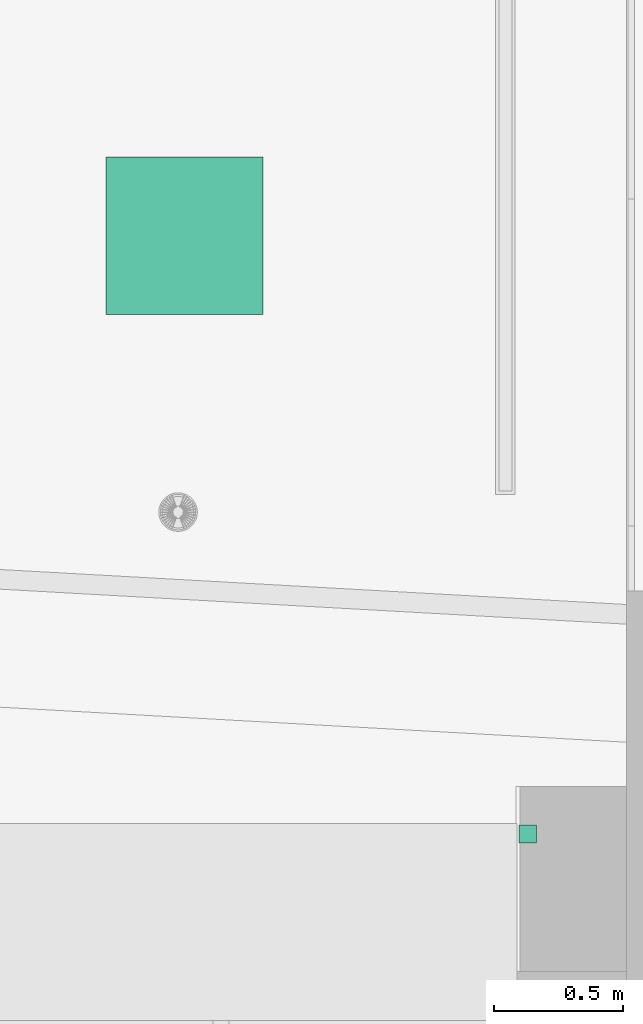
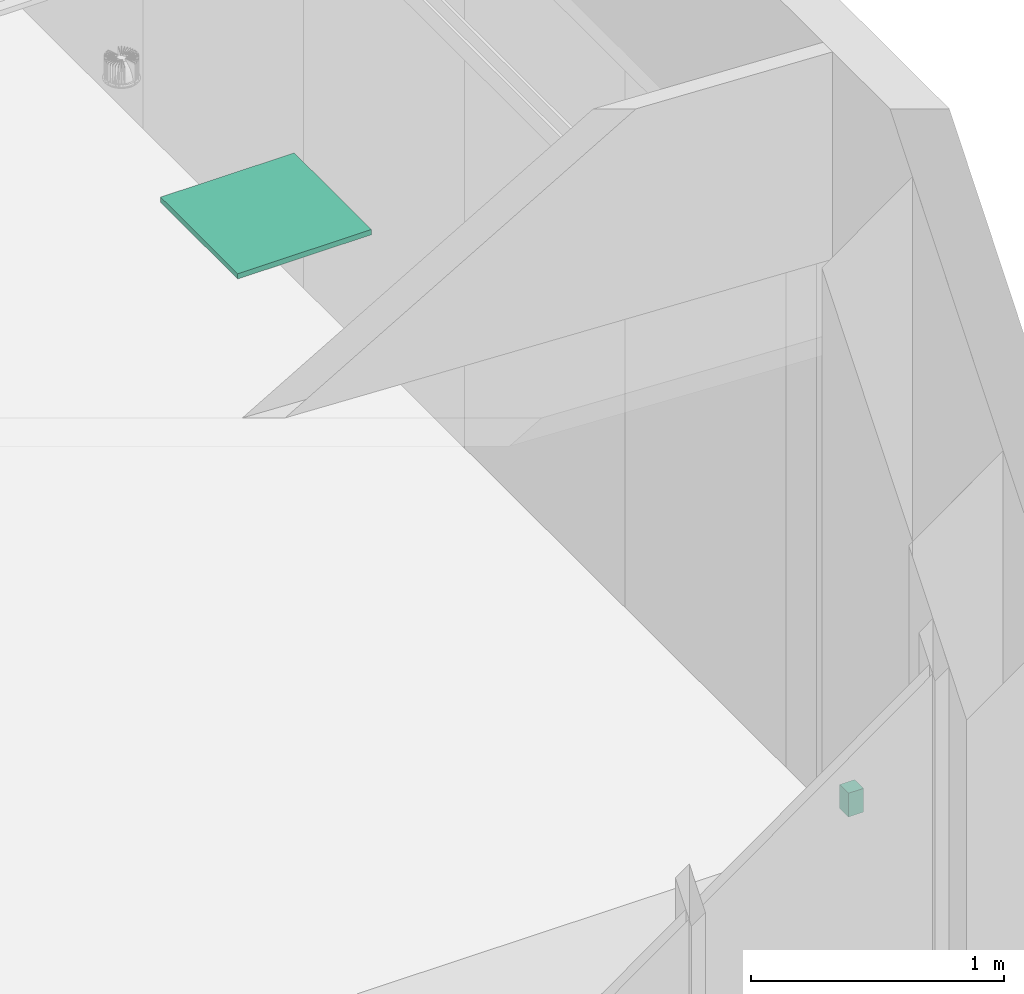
# One storey, part 83 of 108: 1 air terminal, 1 outlet.
"""IFC4 building model written with IfcOpenShell, lengths in feet."""

from ifc_helpers import new_model, entity, si_unit, converted_unit, derived_unit, direction, frame, origin, origin_2d_with_axis, place, context, subcontext, project, spatial, rectangle, extrude, source, transform, mapped, type_object, type_shapes, element, save


model = new_model("IFC4")

# Units and contexts
model_context = context("Model", 3, precision=0.0001, world=origin(), true_north=direction((6.12303176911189e-17, 1.0)))
body_context = subcontext(model_context, "Body", "Model", "MODEL_VIEW")
ifc_project = project(units=[converted_unit("LENGTHUNIT", "FOOT", entity("IfcRatioMeasure", 0.3048), si_unit("LENGTHUNIT", "METRE"), dimensions=[1, 0, 0, 0, 0, 0, 0]), converted_unit("AREAUNIT", "SQUARE FOOT", entity("IfcRatioMeasure", 0.09290304), si_unit("AREAUNIT", "SQUARE_METRE"), dimensions=[2, 0, 0, 0, 0, 0, 0]), converted_unit("VOLUMEUNIT", "CUBIC FOOT", entity("IfcRatioMeasure", 0.028316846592), si_unit("VOLUMEUNIT", "CUBIC_METRE"), dimensions=[3, 0, 0, 0, 0, 0, 0]), converted_unit("PLANEANGLEUNIT", "DEGREE", entity("IfcRatioMeasure", 0.0174532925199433), si_unit("PLANEANGLEUNIT", "RADIAN"), dimensions=[0, 0, 0, 0, 0, 0, 0]), si_unit("MASSUNIT", "GRAM", prefix="KILO"), derived_unit("MASSDENSITYUNIT", [(si_unit("MASSUNIT", "GRAM", prefix="KILO"), 1), (si_unit("LENGTHUNIT", "METRE"), -3)]), si_unit("TIMEUNIT", "SECOND"), si_unit("FREQUENCYUNIT", "HERTZ"), si_unit("THERMODYNAMICTEMPERATUREUNIT", "DEGREE_CELSIUS"), derived_unit("THERMALTRANSMITTANCEUNIT", [(si_unit("MASSUNIT", "GRAM", prefix="KILO"), 1), (si_unit("THERMODYNAMICTEMPERATUREUNIT", "KELVIN"), -1), (si_unit("TIMEUNIT", "SECOND"), -3)]), derived_unit("VOLUMETRICFLOWRATEUNIT", [(si_unit("LENGTHUNIT", "METRE"), 3), (si_unit("TIMEUNIT", "SECOND"), -1)]), si_unit("ELECTRICCURRENTUNIT", "AMPERE"), si_unit("ELECTRICVOLTAGEUNIT", "VOLT"), si_unit("POWERUNIT", "WATT"), si_unit("FORCEUNIT", "NEWTON"), si_unit("ILLUMINANCEUNIT", "LUX"), si_unit("LUMINOUSFLUXUNIT", "LUMEN"), si_unit("LUMINOUSINTENSITYUNIT", "CANDELA"), derived_unit("USERDEFINED", [(si_unit("MASSUNIT", "GRAM", prefix="KILO"), -1), (si_unit("LENGTHUNIT", "METRE"), -2), (si_unit("TIMEUNIT", "SECOND"), 3), (si_unit("LUMINOUSFLUXUNIT", "LUMEN"), 1)]), derived_unit("LINEARVELOCITYUNIT", [(si_unit("LENGTHUNIT", "METRE"), 1), (si_unit("TIMEUNIT", "SECOND"), -1)]), si_unit("PRESSUREUNIT", "PASCAL"), derived_unit("USERDEFINED", [(si_unit("LENGTHUNIT", "METRE"), -2), (si_unit("MASSUNIT", "GRAM", prefix="KILO"), 1), (si_unit("TIMEUNIT", "SECOND"), -2)])], contexts=[model_context])

# Site, building, storey
site_placement = place(None, origin())
site = spatial("IfcSite", under=ifc_project, at=site_placement, Name="Default", CompositionType="ELEMENT")
building_placement = place(site_placement, origin())
building = spatial("IfcBuilding", under=site, at=building_placement, CompositionType="ELEMENT")
storey_placement = place(building_placement, frame((0.0, 0.0, 168.0)))
storey = spatial("IfcBuildingStorey", under=building, at=storey_placement, Name="Level 15", CompositionType="ELEMENT", Elevation=168.0)

# Air terminal
air_terminal_type = type_object("IfcAirTerminalType", Name="24x 24", PredefinedType="NOTDEFINED")
shared_shape_1 = source(origin(), body_context, "Body", "SweptSolid", [
    extrude(rectangle(XDim=2.0, YDim=2.0, at=origin_2d_with_axis()), frame((1.0, 1.0, 0.0), z_axis=(0.0, 0.0, 1.0), x_axis=(-1.0, 0.0, 0.0)), (0.0, 0.0, 1.0), 0.083333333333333),
])
type_shapes(air_terminal_type, [shared_shape_1])
air_terminal_placement = place(storey_placement, frame((54.587954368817, -13.2349589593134, 8.41666666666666)))
element("IfcAirTerminal", 1, at=air_terminal_placement, inside=storey, type_object=air_terminal_type, Name="Square Supply Diffuser (1):24x 24", ObjectType="Square Supply Diffuser (1):24x 24", PredefinedType="NOTDEFINED", context=body_context, shape_type="MappedRepresentation", body=[
    mapped(shared_shape_1, transform((0.0, 0.0, 0.0), scale=1.0)),
])

# Outlet
outlet_type = type_object("IfcOutletType", Name="Duplex-Standard 2", PredefinedType="POWEROUTLET")
shared_shape_2 = source(origin(), body_context, "Body", "SweptSolid", [
    extrude(rectangle(XDim=0.229166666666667, YDim=0.375000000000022, at=origin_2d_with_axis()), frame((0.0, 0.0, -0.208333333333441), z_axis=(0.0, 0.0, 1.0), x_axis=(-1.0, 0.0, 0.0)), (0.0, 0.0, 1.0), 0.208333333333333),
    extrude(rectangle(XDim=0.229166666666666, YDim=0.375000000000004, at=origin_2d_with_axis()), frame((0.0, 0.0, 0.0), z_axis=(0.0, 0.0, 1.0), x_axis=(-1.0, 0.0, 0.0)), (0.0, 0.0, 1.0), 0.015625),
])
type_shapes(outlet_type, [shared_shape_2])
outlet_placement = place(storey_placement, frame((59.8578037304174, -19.8491023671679, 2.3333333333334), z_axis=(-1.0, 0.0, 0.0), x_axis=(0.0, -1.0, 0.0)))
element("IfcOutlet", 2, at=outlet_placement, inside=storey, type_object=outlet_type, Name="Power-Recessed-All2:Duplex-Standard 2", ObjectType="Power-Recessed-All2:Duplex-Standard 2", PredefinedType="POWEROUTLET", context=body_context, shape_type="MappedRepresentation", body=[
    mapped(shared_shape_2, transform((0.0, 0.0, 0.0), scale=1.0)),
])

save(model, "model.ifc")
